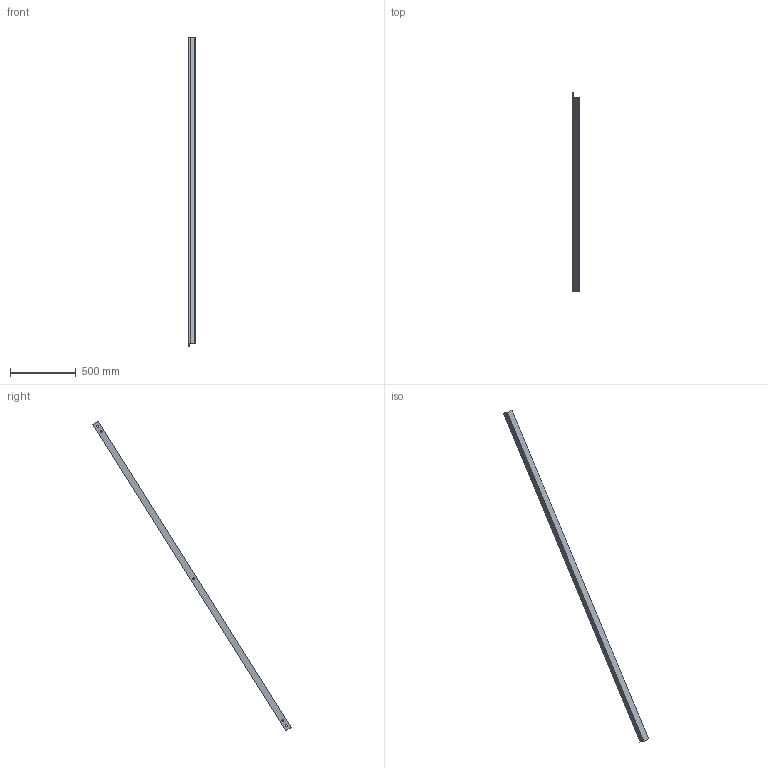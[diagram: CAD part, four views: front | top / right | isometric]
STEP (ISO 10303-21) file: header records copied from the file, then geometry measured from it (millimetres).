
FILE_DESCRIPTION (( 'STEP AP214' ), '1' );
FILE_NAME ('CCJ029-REP.072 - CONTREVENTEMENT SUPERIEUR B1-C1.STEP', '2024-01-31T09:41:20', ( '' ), ( '' ), 'SwSTEP 2.0', 'SolidWorks 2021', '' );
FILE_SCHEMA (( 'AUTOMOTIVE_DESIGN' ));
Length unit declared in the file: millimetre
Products named in the file (1): CCJ029-REP.072 - CONTREVENTEMENT SUPERIEUR B1-C1
Bounding box: 50 x 1513.6 x 2359.87 mm (x, y, z)
Volume: 1320874.9 mm3; surface area: 535618 mm2
Topology: 1 solids, 1 shells, 21 faces, 57 edges, 38 vertices
Faces by surface type: cylinder 13, plane 8
Entity records: 731 total; most frequent: DIRECTION 127, CARTESIAN_POINT 117, ORIENTED_EDGE 114, EDGE_CURVE 57, AXIS2_PLACEMENT_3D 48, VERTEX_POINT 38, LINE 31, EDGE_LOOP 31
